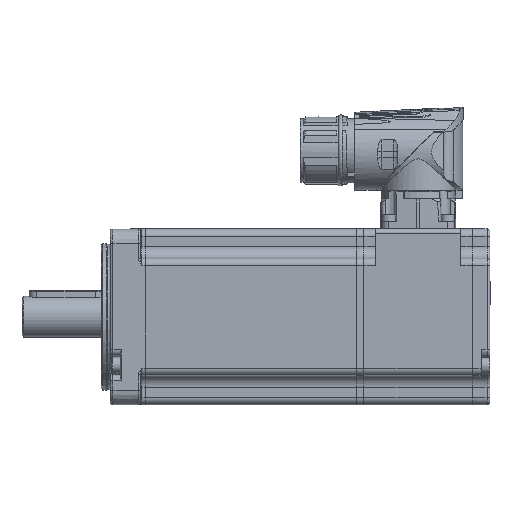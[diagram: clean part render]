
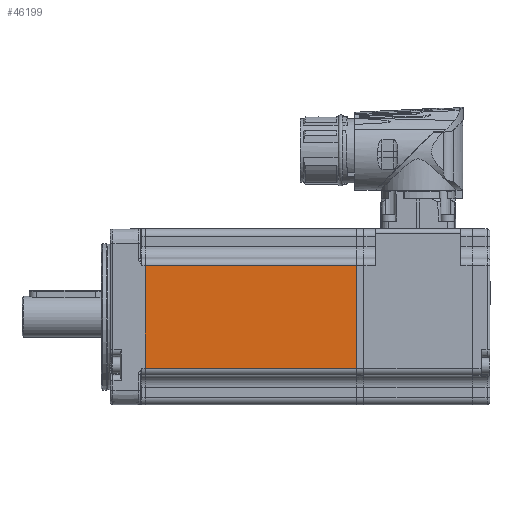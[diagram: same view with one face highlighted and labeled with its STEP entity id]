
A CAD part, left-side view. The second image highlights one B-rep face of the part: STEP entity #46199.
In plain terms, the highlighted planar face has unit normal (-1, 0, 0) as drawn and (0, 1, 0) by its records, which use the part's own axes.
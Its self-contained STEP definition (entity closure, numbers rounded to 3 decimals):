
#15987=LINE('',#73320,#18190);
#15988=LINE('',#73323,#18191);
#15989=LINE('',#73325,#18192);
#15990=LINE('',#73327,#18193);
#18190=VECTOR('',#55971,1000.);
#18191=VECTOR('',#55972,1000.);
#18192=VECTOR('',#55973,1000.);
#18193=VECTOR('',#55974,1000.);
#24651=ORIENTED_EDGE('',*,*,#31602,.T.);
#24652=ORIENTED_EDGE('',*,*,#31603,.T.);
#24653=ORIENTED_EDGE('',*,*,#31604,.T.);
#24654=ORIENTED_EDGE('',*,*,#31605,.T.);
#31602=EDGE_CURVE('',#35540,#35541,#15987,.F.);
#31603=EDGE_CURVE('',#35541,#35542,#15988,.T.);
#31604=EDGE_CURVE('',#35542,#35543,#15989,.T.);
#31605=EDGE_CURVE('',#35543,#35540,#15990,.T.);
#35540=VERTEX_POINT('',#73321);
#35541=VERTEX_POINT('',#73322);
#35542=VERTEX_POINT('',#73324);
#35543=VERTEX_POINT('',#73326);
#40039=EDGE_LOOP('',(#24651,#24652,#24653,#24654));
#42835=FACE_BOUND('',#40039,.T.);
#44642=PLANE('',#49057);
#46199=ADVANCED_FACE('',(#42835),#44642,.T.);
#49057=AXIS2_PLACEMENT_3D('',#73319,#55969,#55970);
#55969=DIRECTION('',(0.,1.,0.));
#55970=DIRECTION('',(0.,0.,1.));
#55971=DIRECTION('',(-1.,0.,0.));
#55972=DIRECTION('',(0.,0.,-1.));
#55973=DIRECTION('',(-1.,0.,0.));
#55974=DIRECTION('',(0.,0.,1.));
#73319=CARTESIAN_POINT('',(-200.,30.,-30.));
#73320=CARTESIAN_POINT('',(0.,30.,17.5));
#73321=CARTESIAN_POINT('',(-73.,30.,17.5));
#73322=CARTESIAN_POINT('',(-1.,30.,17.5));
#73323=CARTESIAN_POINT('',(-1.,30.,-30.));
#73324=CARTESIAN_POINT('',(-1.,30.,-17.5));
#73325=CARTESIAN_POINT('',(-200.,30.,-17.5));
#73326=CARTESIAN_POINT('',(-73.,30.,-17.5));
#73327=CARTESIAN_POINT('',(-73.,30.,-30.));
